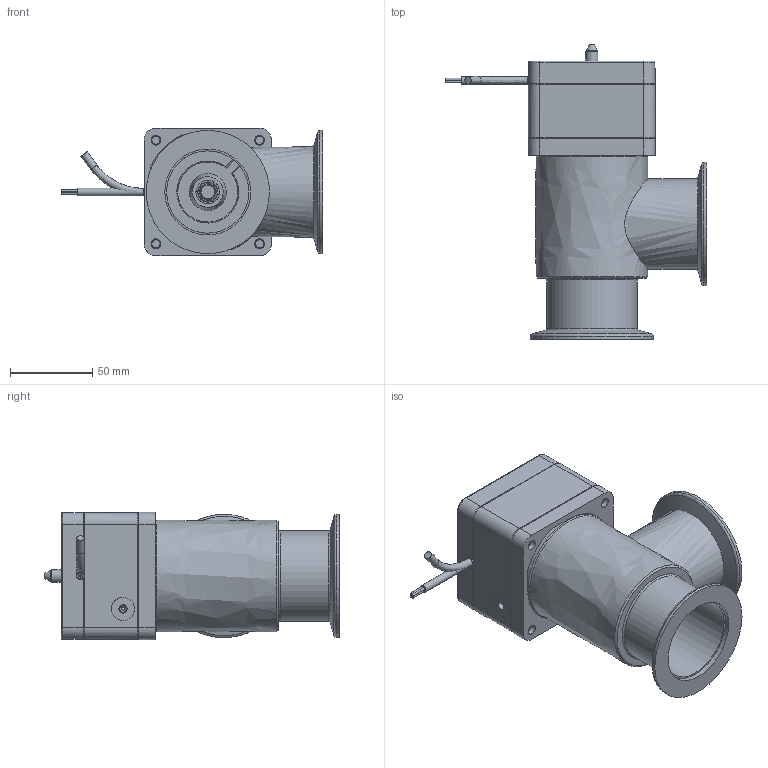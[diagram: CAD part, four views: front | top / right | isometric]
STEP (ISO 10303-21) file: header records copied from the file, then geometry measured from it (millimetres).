
FILE_DESCRIPTION((''),'2;1');
FILE_NAME('C:\temp\ideas\256680.stp','2005-12-20T13:32:45',('User'),( 'SDRC'),'I-DEAS Master Series 9','UNIX','Yes');
FILE_SCHEMA(('CONFIG_CONTROL_DESIGN'));
Length unit declared in the file: millimetre
Assembly tree (18 placements, depth 0):
Bounding box: 159.2 x 179 x 77.4 mm (x, y, z)
Volume: 156334.9 mm3; surface area: 158918.6 mm2
Topology: 23 solids, 24 shells, 677 faces, 1680 edges, 1144 vertices
Faces by surface type: bspline 677
Entity records: 20889 total; most frequent: CARTESIAN_POINT 10598, ORIENTED_EDGE 2764, EDGE_CURVE 1382, VERTEX_POINT 887, EDGE_LOOP 668, FACE_OUTER_BOUND 567, ADVANCED_FACE 567, B_SPLINE_CURVE_WITH_KNOTS 509
